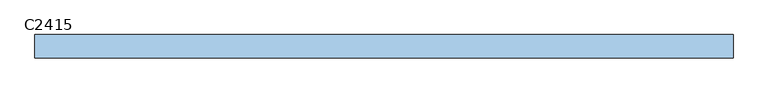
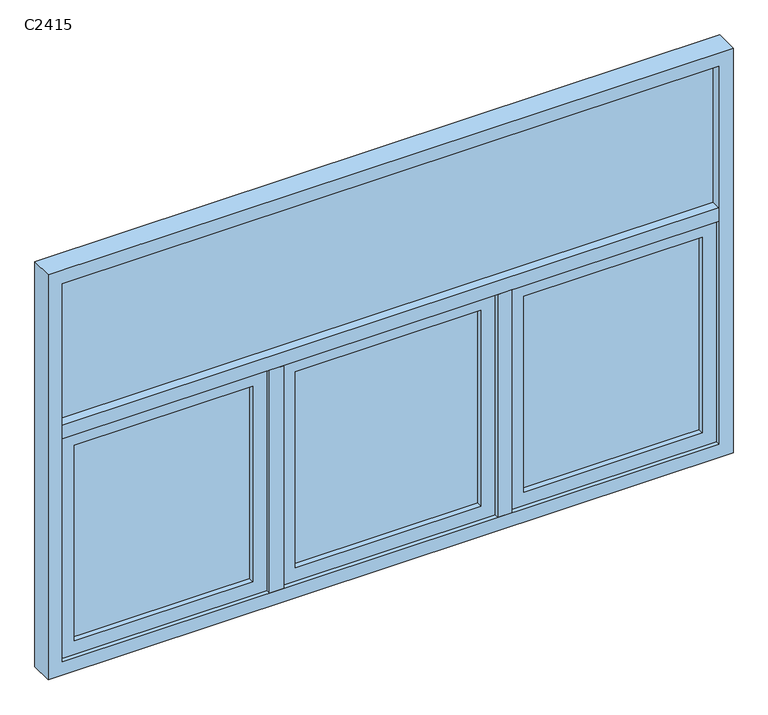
"""IFC4 building model written with IfcOpenShell, lengths in millimetres: window geometry, 组合窗 - 双层三列(三扇平开) - 上部单扇 : C2415."""

from ifc_helpers import new_model, si_unit, frame, origin, place, context, project, spatial, polyline, outline, extrude, source, transform, mapped, element, save


def c2415_e6cdfd47(model_context):
    return source(origin(), model_context, "Body", "SweptSolid", [
        extrude(outline(polyline([(325.0, -10.0), (-325.0, -10.0), (-325.0, 0.0), (325.0, 0.0), (325.0, -10.0)])), frame((0.0, 0.0, 1100.0), z_axis=(0.0, 0.0, 1.0), x_axis=(1.0, 0.0, 0.0)), (0.0, 0.0, 1.0), 725.0),
        extrude(outline(polyline([(1875.0, 375.0), (1875.0, -375.0), (1050.0, -375.0), (1050.0, 375.0), (1875.0, 375.0)]), holes=[polyline([(1100.0, 325.0), (1100.0, -325.0), (1825.0, -325.0), (1825.0, 325.0), (1100.0, 325.0)])]), frame((0.0, -30.0, 0.0), z_axis=(0.0, 1.0, 0.0), x_axis=(0.0, 0.0, 1.0)), (0.0, 0.0, 1.0), 50.0),
        extrude(outline(polyline([(1150.0, -10.0), (-1150.0, -10.0), (-1150.0, 0.0), (1150.0, 0.0), (1150.0, -10.0)])), frame((0.0, 0.0, 1925.0), z_axis=(0.0, 0.0, 1.0), x_axis=(1.0, 0.0, 0.0)), (0.0, 0.0, 1.0), 525.0),
        extrude(outline(polyline([(-475.0, -10.0), (-1100.0, -10.0), (-1100.0, 0.0), (-475.0, 0.0), (-475.0, -10.0)])), frame((0.0, 0.0, 1100.0), z_axis=(0.0, 0.0, 1.0), x_axis=(1.0, 0.0, 0.0)), (0.0, 0.0, 1.0), 725.0),
        extrude(outline(polyline([(1875.0, -425.0), (1875.0, -1150.0), (1050.0, -1150.0), (1050.0, -425.0), (1875.0, -425.0)]), holes=[polyline([(1100.0, -475.0), (1100.0, -1100.0), (1825.0, -1100.0), (1825.0, -475.0), (1100.0, -475.0)])]), frame((0.0, -30.0, 0.0), z_axis=(0.0, 1.0, 0.0), x_axis=(0.0, 0.0, 1.0)), (0.0, 0.0, 1.0), 50.0),
        extrude(outline(polyline([(1100.0, -10.0), (475.0, -10.0), (475.0, 0.0), (1100.0, 0.0), (1100.0, -10.0)])), frame((0.0, 0.0, 1100.0), z_axis=(0.0, 0.0, 1.0), x_axis=(1.0, 0.0, 0.0)), (0.0, 0.0, 1.0), 725.0),
        extrude(outline(polyline([(1875.0, 1150.0), (1875.0, 425.0), (1050.0, 425.0), (1050.0, 1150.0), (1875.0, 1150.0)]), holes=[polyline([(1100.0, 1100.0), (1100.0, 475.0), (1825.0, 475.0), (1825.0, 1100.0), (1100.0, 1100.0)])]), frame((0.0, -30.0, 0.0), z_axis=(0.0, 1.0, 0.0), x_axis=(0.0, 0.0, 1.0)), (0.0, 0.0, 1.0), 50.0),
        extrude(outline(polyline([(375.0, 35.0), (425.0, 35.0), (425.0, -45.0), (375.0, -45.0), (375.0, 35.0)])), frame((0.0, 0.0, 1050.0), z_axis=(0.0, 0.0, 1.0), x_axis=(1.0, 0.0, 0.0)), (0.0, 0.0, 1.0), 825.0),
        extrude(outline(polyline([(-425.0, 35.0), (-375.0, 35.0), (-375.0, -45.0), (-425.0, -45.0), (-425.0, 35.0)])), frame((0.0, 0.0, 1050.0), z_axis=(0.0, 0.0, 1.0), x_axis=(1.0, 0.0, 0.0)), (0.0, 0.0, 1.0), 825.0),
        extrude(outline(polyline([(-1150.0, 35.0), (1150.0, 35.0), (1150.0, -45.0), (-1150.0, -45.0), (-1150.0, 35.0)])), frame((0.0, 0.0, 1875.0), z_axis=(0.0, 0.0, 1.0), x_axis=(1.0, 0.0, 0.0)), (0.0, 0.0, 1.0), 50.0),
        extrude(outline(polyline([(2500.0, -1200.0), (1000.0, -1200.0), (1000.0, 1200.0), (2500.0, 1200.0), (2500.0, -1200.0)]), holes=[polyline([(2450.0, 1150.0), (1050.0, 1150.0), (1050.0, -1150.0), (2450.0, -1150.0), (2450.0, 1150.0)])]), frame((0.0, -45.0, 0.0), z_axis=(0.0, 1.0, 0.0), x_axis=(0.0, 0.0, 1.0)), (0.0, 0.0, 1.0), 80.0),
    ])


if __name__ == "__main__":
    model = new_model("IFC4")
    model_context = context("Model", 3, world=origin())
    ifc_project = project(units=[si_unit("LENGTHUNIT", "METRE", prefix="MILLI")], contexts=[model_context])
    site = spatial("IfcSite", under=ifc_project)
    building = spatial("IfcBuilding", under=site)
    placement = place(None, origin())
    c2415_shape = c2415_e6cdfd47(model_context)
    element("IfcWindow", 1, ObjectType="组合窗 - 双层三列(三扇平开) - 上部单扇 : C2415", at=placement, inside=building, context=model_context, shape_type="MappedRepresentation", body=[
        mapped(c2415_shape, transform((0.0, 0.0, 0.0), x_axis=(1.0, 0.0, 0.0), y_axis=(0.0, 1.0, 0.0), z_axis=(0.0, 0.0, 1.0))),
    ])
    save(model, "model.ifc")
